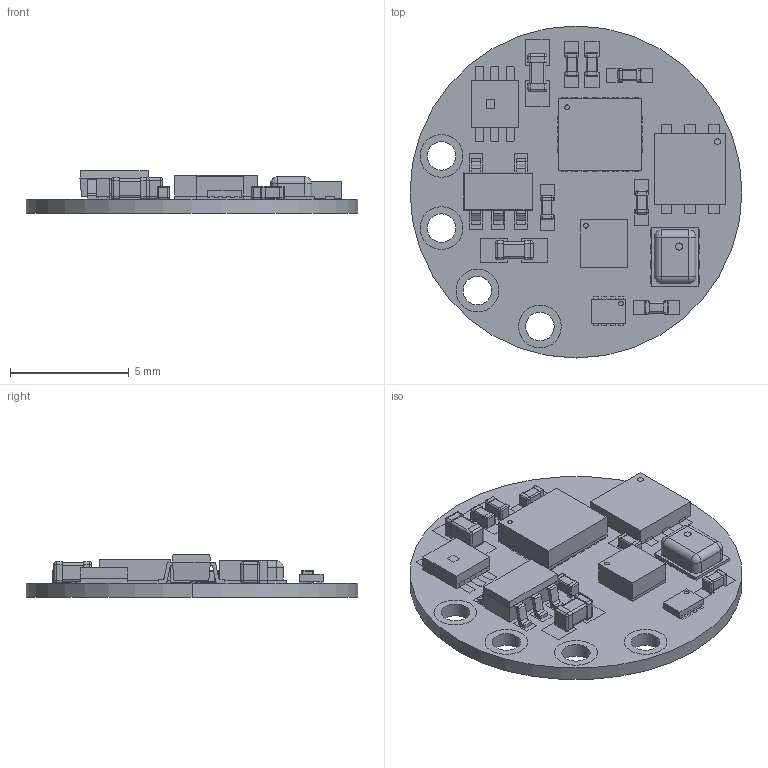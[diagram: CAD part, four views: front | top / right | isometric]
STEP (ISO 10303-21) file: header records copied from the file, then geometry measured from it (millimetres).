
FILE_DESCRIPTION(('FreeCAD Model'),'2;1');
FILE_NAME('/home/devy/MEGA/TinyCircuits/Assets/BoardsANDBoardModels_2/TinyLily/TinyCircuits-Tiny_Peripherals-TinyLily_Accelerometer-ASL2002/cad/TinyLily_ACCELEROMETER_ASL2002_REV1-STEP.step' ,'2020-08-24T18:09:23',('Author'),(''), 'Open CASCADE STEP processor 7.4','FreeCAD','Unknown');
FILE_SCHEMA(('AUTOMOTIVE_DESIGN { 1 0 10303 214 1 1 1 1 }'));
Products named in the file (1): TinyLily_ACCELEROMETER_ASL2002_REV1-STEP
Bounding box: 14 x 14 x 1.8 mm (x, y, z)
Volume: 235.9 mm3; surface area: 1076 mm2
Topology: 228 solids, 228 shells, 2088 faces, 6212 edges, 5994 vertices
Faces by surface type: plane 1666, cylinder 314, sphere 88, revolution 20
Full cylindrical faces by diameter (mm): 1.202 x20, 1.803 x12
Entity records: 155355 total; most frequent: CARTESIAN_POINT 27187, DIRECTION 19851, LINE 12815, VECTOR 12815, ORIENTED_EDGE 9208, PCURVE 9208, DEFINITIONAL_REPRESENTATION 9208, EDGE_CURVE 4604
